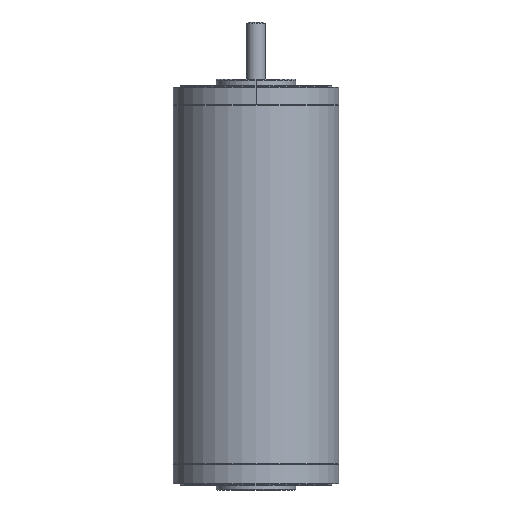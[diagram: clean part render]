
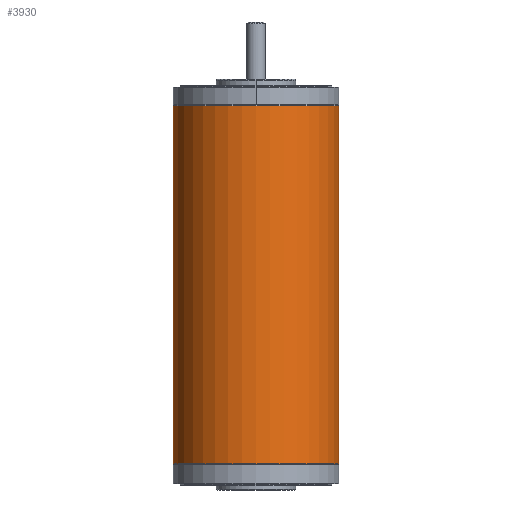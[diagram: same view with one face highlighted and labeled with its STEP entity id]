
A CAD part, front view. The second image highlights one B-rep face of the part: STEP entity #3930.
In plain terms, the highlighted cylindrical face has radius 26 mm (diameter 52 mm), a partial arc.
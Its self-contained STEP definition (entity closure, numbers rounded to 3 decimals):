
#384 = EDGE_CURVE ( 'NONE', #3346, #3437, #1619, .T. ) ;
#1616 = DIRECTION ( 'NONE',  ( 0., 0., 1. ) ) ;
#1617 = VECTOR ( 'NONE', #1616, 1000. ) ;
#1618 = CARTESIAN_POINT ( 'NONE',  ( -26., 0., -8. ) ) ;
#1619 = LINE ( 'NONE', #1618, #1617 ) ;
#3346 = VERTEX_POINT ( 'NONE', #4282 ) ;
#3358 = VERTEX_POINT ( 'NONE', #4427 ) ;
#3380 = VERTEX_POINT ( 'NONE', #4376 ) ;
#3397 = EDGE_CURVE ( 'NONE', #3358, #3380, #4343, .T. ) ;
#3437 = VERTEX_POINT ( 'NONE', #4477 ) ;
#3919 = ORIENTED_EDGE ( 'NONE', *, *, #384, .F. ) ;
#3920 = ORIENTED_EDGE ( 'NONE', *, *, #3928, .T. ) ;
#3928 = EDGE_CURVE ( 'NONE', #3346, #3358, #5475, .T. ) ;
#3930 = ADVANCED_FACE ( 'NONE', ( #5464 ), #5477, .T. ) ;
#3940 = EDGE_CURVE ( 'NONE', #3437, #3380, #5455, .T. ) ;
#3984 = EDGE_LOOP ( 'NONE', ( #3919, #3920, #4025, #4076 ) ) ;
#4025 = ORIENTED_EDGE ( 'NONE', *, *, #3397, .T. ) ;
#4076 = ORIENTED_EDGE ( 'NONE', *, *, #3940, .F. ) ;
#4282 = CARTESIAN_POINT ( 'NONE',  ( -26., 0., -120.7 ) ) ;
#4340 = DIRECTION ( 'NONE',  ( 0., 0., 1. ) ) ;
#4341 = VECTOR ( 'NONE', #4340, 1000. ) ;
#4342 = CARTESIAN_POINT ( 'NONE',  ( 26., 0., -8. ) ) ;
#4343 = LINE ( 'NONE', #4342, #4341 ) ;
#4376 = CARTESIAN_POINT ( 'NONE',  ( 26., 0., -8.3 ) ) ;
#4427 = CARTESIAN_POINT ( 'NONE',  ( 26., 0., -120.7 ) ) ;
#4477 = CARTESIAN_POINT ( 'NONE',  ( -26., 0., -8.3 ) ) ;
#5451 = DIRECTION ( 'NONE',  ( 1., 0., 0. ) ) ;
#5452 = DIRECTION ( 'NONE',  ( 0., 0., 1. ) ) ;
#5453 = CARTESIAN_POINT ( 'NONE',  ( 0., 0., -8.3 ) ) ;
#5454 = AXIS2_PLACEMENT_3D ( 'NONE', #5453, #5452, #5451 ) ;
#5455 = CIRCLE ( 'NONE', #5454, 26. ) ;
#5460 = DIRECTION ( 'NONE',  ( 1., 0., 0. ) ) ;
#5461 = DIRECTION ( 'NONE',  ( 0., 0., 1. ) ) ;
#5464 = FACE_OUTER_BOUND ( 'NONE', #3984, .T. ) ;
#5471 = DIRECTION ( 'NONE',  ( 1., 0., 0. ) ) ;
#5472 = DIRECTION ( 'NONE',  ( 0., 0., 1. ) ) ;
#5473 = CARTESIAN_POINT ( 'NONE',  ( 0., 0., -120.7 ) ) ;
#5474 = AXIS2_PLACEMENT_3D ( 'NONE', #5473, #5472, #5471 ) ;
#5475 = CIRCLE ( 'NONE', #5474, 26. ) ;
#5476 = AXIS2_PLACEMENT_3D ( 'NONE', #5479, #5461, #5460 ) ;
#5477 = CYLINDRICAL_SURFACE ( 'NONE', #5476, 26. ) ;
#5479 = CARTESIAN_POINT ( 'NONE',  ( 0., 0., -8. ) ) ;
